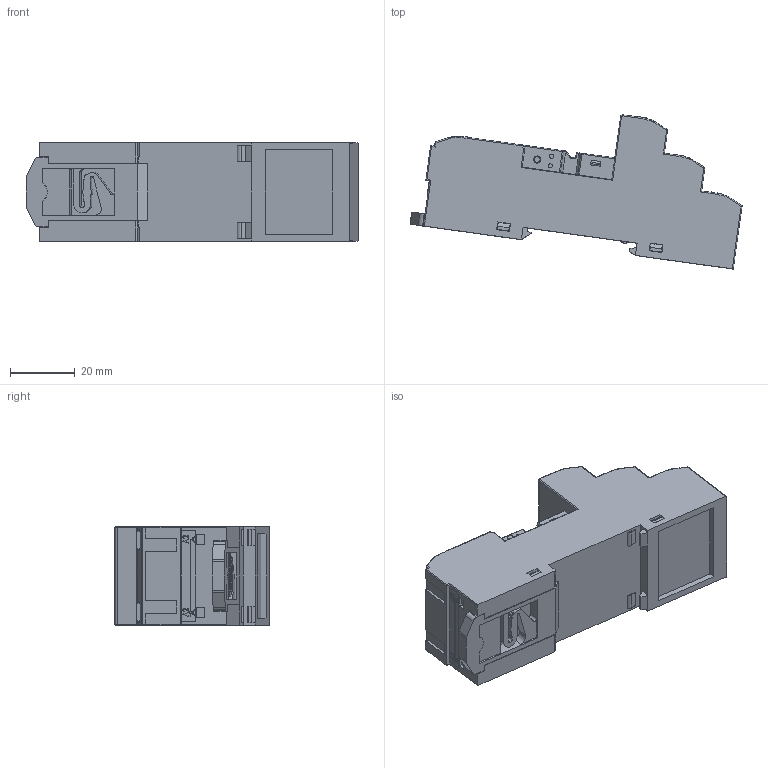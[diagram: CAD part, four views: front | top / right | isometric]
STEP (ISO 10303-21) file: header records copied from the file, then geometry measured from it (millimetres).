
FILE_DESCRIPTION (( 'STEP AP203' ), '1' );
FILE_NAME ('錨璃1^SKC14-ST&SKC08-ST軞蚾芞-俋倛.STEP', '2023-05-13T05:31:02', ( '' ), ( '' ), 'SwSTEP 2.0', 'SolidWorks 2018', '' );
FILE_SCHEMA (( 'CONFIG_CONTROL_DESIGN' ));
Length unit declared in the file: millimetre
Products named in the file (1): 錨璃1^SKC14-ST&SKC08-ST軞蚾芞-俋倛
Bounding box: 102.64 x 47.62 x 30.6 mm (x, y, z)
Volume: 81218.1 mm3; surface area: 18839.6 mm2
Topology: 1 solids, 5 shells, 1961 faces, 5541 edges, 3641 vertices
Faces by surface type: plane 1137, cylinder 608, cone 94, bspline 68, torus 34, sphere 20
Entity records: 64835 total; most frequent: CARTESIAN_POINT 16923, ORIENTED_EDGE 11062, DIRECTION 8772, EDGE_CURVE 5531, VERTEX_POINT 3641, VECTOR 3636, LINE 3636, AXIS2_PLACEMENT_3D 2568
